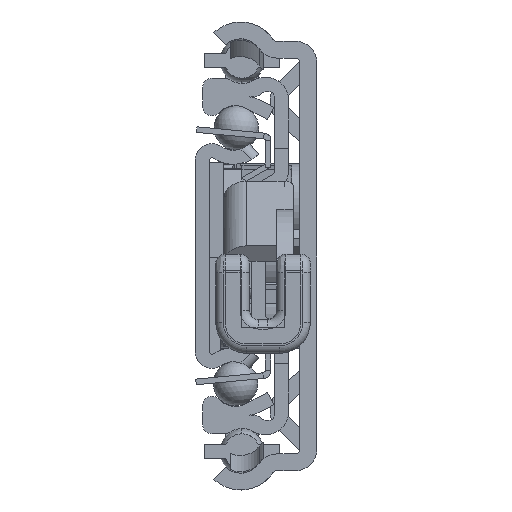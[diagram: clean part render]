
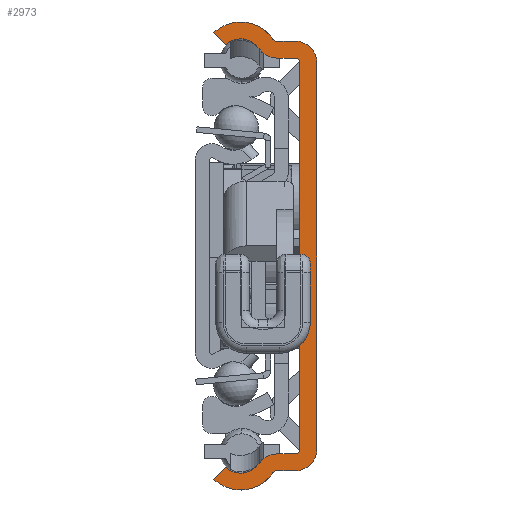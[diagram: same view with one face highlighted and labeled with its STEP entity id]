
A CAD part, left-side view. The second image highlights one B-rep face of the part: STEP entity #2973.
In plain terms, the highlighted planar face has unit normal (-1, 0, 0).
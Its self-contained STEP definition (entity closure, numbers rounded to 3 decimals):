
#1=DIRECTION('',(0.,1.,0.));
#2=VECTOR('',#1,1.975);
#3=CARTESIAN_POINT('',(0.,2.3,21.15));
#4=LINE('',#3,#2);
#5=CARTESIAN_POINT('',(0.,4.275,23.45));
#6=DIRECTION('',(-1.,0.,0.));
#7=DIRECTION('',(0.,0.827,-0.562));
#8=AXIS2_PLACEMENT_3D('',#5,#6,#7);
#10=CARTESIAN_POINT('',(0.,8.147,20.82));
#11=DIRECTION('',(-1.,0.,0.));
#12=DIRECTION('',(0.,-0.827,0.562));
#13=AXIS2_PLACEMENT_3D('',#10,#11,#12);
#15=DIRECTION('',(0.,0.683,0.731));
#16=VECTOR('',#15,1.8);
#17=CARTESIAN_POINT('',(0.,9.771,22.559));
#18=LINE('',#17,#16);
#19=CARTESIAN_POINT('',(0.,8.147,20.82));
#20=DIRECTION('',(1.,0.,0.));
#21=DIRECTION('',(0.,0.683,0.731));
#22=AXIS2_PLACEMENT_3D('',#19,#20,#21);
#24=DIRECTION('',(0.,-1.,0.));
#25=VECTOR('',#24,1.975);
#26=CARTESIAN_POINT('',(0.,4.275,22.95));
#27=LINE('',#26,#25);
#28=CARTESIAN_POINT('',(0.,2.3,20.65));
#29=DIRECTION('',(-1.,0.,0.));
#30=DIRECTION('',(0.,-1.,0.));
#31=AXIS2_PLACEMENT_3D('',#28,#29,#30);
#33=DIRECTION('',(0.,0.,-1.));
#34=VECTOR('',#33,41.3);
#35=CARTESIAN_POINT('',(0.,0.,20.65));
#36=LINE('',#35,#34);
#37=CARTESIAN_POINT('',(0.,2.3,-20.65));
#38=DIRECTION('',(-1.,0.,0.));
#39=DIRECTION('',(0.,0.,-1.));
#40=AXIS2_PLACEMENT_3D('',#37,#38,#39);
#42=DIRECTION('',(0.,1.,0.));
#43=VECTOR('',#42,1.975);
#44=CARTESIAN_POINT('',(0.,2.3,-22.95));
#45=LINE('',#44,#43);
#46=CARTESIAN_POINT('',(0.,8.147,-20.82));
#47=DIRECTION('',(1.,0.,0.));
#48=DIRECTION('',(0.,-0.827,-0.562));
#49=AXIS2_PLACEMENT_3D('',#46,#47,#48);
#51=DIRECTION('',(0.,-0.683,0.731));
#52=VECTOR('',#51,1.8);
#53=CARTESIAN_POINT('',(0.,11.,-23.875));
#54=LINE('',#53,#52);
#55=CARTESIAN_POINT('',(0.,8.147,-20.82));
#56=DIRECTION('',(-1.,0.,0.));
#57=DIRECTION('',(0.,0.683,-0.731));
#58=AXIS2_PLACEMENT_3D('',#55,#56,#57);
#60=CARTESIAN_POINT('',(0.,4.275,-23.45));
#61=DIRECTION('',(-1.,0.,0.));
#62=DIRECTION('',(0.,0.,1.));
#63=AXIS2_PLACEMENT_3D('',#60,#61,#62);
#65=DIRECTION('',(0.,-1.,0.));
#66=VECTOR('',#65,1.975);
#67=CARTESIAN_POINT('',(0.,4.275,-21.15));
#68=LINE('',#67,#66);
#204=DIRECTION('',(0.,0.,-1.));
#205=VECTOR('',#204,41.3);
#206=CARTESIAN_POINT('',(0.,1.8,20.65));
#207=LINE('',#206,#205);
#1007=CARTESIAN_POINT('',(0.,2.3,-20.65));
#1008=DIRECTION('',(1.,0.,0.));
#1009=DIRECTION('',(0.,-1.,0.));
#1010=AXIS2_PLACEMENT_3D('',#1007,#1008,#1009);
#1205=CARTESIAN_POINT('',(0.,2.3,20.65));
#1206=DIRECTION('',(1.,0.,0.));
#1207=DIRECTION('',(0.,0.,1.));
#1208=AXIS2_PLACEMENT_3D('',#1205,#1206,#1207);
#1369=CARTESIAN_POINT('',(0.,4.275,23.45));
#1370=DIRECTION('',(1.,0.,0.));
#1371=DIRECTION('',(0.,0.,-1.));
#1372=AXIS2_PLACEMENT_3D('',#1369,#1370,#1371);
#1509=CARTESIAN_POINT('',(0.,4.275,-23.45));
#1510=DIRECTION('',(1.,0.,0.));
#1511=DIRECTION('',(0.,0.827,0.562));
#1512=AXIS2_PLACEMENT_3D('',#1509,#1510,#1511);
#2268=CARTESIAN_POINT('',(0.,11.,-23.875));
#2269=CARTESIAN_POINT('',(0.,9.771,-22.559));
#2270=VERTEX_POINT('',#2268);
#2271=VERTEX_POINT('',#2269);
#2272=CARTESIAN_POINT('',(0.,9.771,22.559));
#2273=CARTESIAN_POINT('',(0.,11.,23.875));
#2274=VERTEX_POINT('',#2272);
#2275=VERTEX_POINT('',#2273);
#2284=CARTESIAN_POINT('',(0.,4.275,22.95));
#2285=CARTESIAN_POINT('',(0.,4.689,23.169));
#2286=VERTEX_POINT('',#2284);
#2287=VERTEX_POINT('',#2285);
#2292=CARTESIAN_POINT('',(0.,4.689,-23.169));
#2293=CARTESIAN_POINT('',(0.,4.275,-22.95));
#2294=VERTEX_POINT('',#2292);
#2295=VERTEX_POINT('',#2293);
#2300=CARTESIAN_POINT('',(0.,2.3,-21.15));
#2302=VERTEX_POINT('',#2300);
#2304=CARTESIAN_POINT('',(0.,2.3,21.15));
#2306=VERTEX_POINT('',#2304);
#2308=CARTESIAN_POINT('',(0.,1.8,-20.65));
#2309=VERTEX_POINT('',#2308);
#2312=CARTESIAN_POINT('',(0.,1.8,20.65));
#2313=VERTEX_POINT('',#2312);
#2316=CARTESIAN_POINT('',(0.,4.275,-21.15));
#2317=CARTESIAN_POINT('',(0.,6.178,-22.157));
#2318=VERTEX_POINT('',#2316);
#2319=VERTEX_POINT('',#2317);
#2324=CARTESIAN_POINT('',(0.,0.,20.65));
#2325=CARTESIAN_POINT('',(0.,2.3,22.95));
#2326=VERTEX_POINT('',#2324);
#2327=VERTEX_POINT('',#2325);
#2332=CARTESIAN_POINT('',(0.,6.178,22.157));
#2333=CARTESIAN_POINT('',(0.,4.275,21.15));
#2334=VERTEX_POINT('',#2332);
#2335=VERTEX_POINT('',#2333);
#2340=CARTESIAN_POINT('',(0.,2.3,-22.95));
#2341=CARTESIAN_POINT('',(0.,0.,-20.65));
#2342=VERTEX_POINT('',#2340);
#2343=VERTEX_POINT('',#2341);
#2926=CARTESIAN_POINT('',(0.,0.,0.));
#2927=DIRECTION('',(1.,0.,0.));
#2928=DIRECTION('',(0.,-1.,0.));
#2929=AXIS2_PLACEMENT_3D('',#2926,#2927,#2928);
#2930=PLANE('',#2929);
#2932=ORIENTED_EDGE('',*,*,#2931,.F.);
#2934=ORIENTED_EDGE('',*,*,#2933,.F.);
#2936=ORIENTED_EDGE('',*,*,#2935,.T.);
#2938=ORIENTED_EDGE('',*,*,#2937,.F.);
#2940=ORIENTED_EDGE('',*,*,#2939,.T.);
#2942=ORIENTED_EDGE('',*,*,#2941,.T.);
#2944=ORIENTED_EDGE('',*,*,#2943,.T.);
#2946=ORIENTED_EDGE('',*,*,#2945,.F.);
#2948=ORIENTED_EDGE('',*,*,#2947,.T.);
#2950=ORIENTED_EDGE('',*,*,#2949,.F.);
#2952=ORIENTED_EDGE('',*,*,#2951,.T.);
#2954=ORIENTED_EDGE('',*,*,#2953,.F.);
#2956=ORIENTED_EDGE('',*,*,#2955,.T.);
#2958=ORIENTED_EDGE('',*,*,#2957,.F.);
#2960=ORIENTED_EDGE('',*,*,#2959,.T.);
#2962=ORIENTED_EDGE('',*,*,#2961,.T.);
#2964=ORIENTED_EDGE('',*,*,#2963,.T.);
#2966=ORIENTED_EDGE('',*,*,#2965,.F.);
#2968=ORIENTED_EDGE('',*,*,#2967,.T.);
#2970=ORIENTED_EDGE('',*,*,#2969,.F.);
#2971=EDGE_LOOP('',(#2932,#2934,#2936,#2938,#2940,#2942,#2944,#2946,#2948,#2950,
#2952,#2954,#2956,#2958,#2960,#2962,#2964,#2966,#2968,#2970));
#2972=FACE_OUTER_BOUND('',#2971,.F.);
#9=CIRCLE('',#8,2.3);
#14=CIRCLE('',#13,2.38);
#23=CIRCLE('',#22,4.18);
#32=CIRCLE('',#31,2.3);
#41=CIRCLE('',#40,2.3);
#50=CIRCLE('',#49,4.18);
#59=CIRCLE('',#58,2.38);
#64=CIRCLE('',#63,2.3);
#1011=CIRCLE('',#1010,0.5);
#1209=CIRCLE('',#1208,0.5);
#1373=CIRCLE('',#1372,0.5);
#1513=CIRCLE('',#1512,0.5);
#2931=EDGE_CURVE('',#2313,#2309,#207,.T.);
#2933=EDGE_CURVE('',#2306,#2313,#1209,.T.);
#2935=EDGE_CURVE('',#2306,#2335,#4,.T.);
#2937=EDGE_CURVE('',#2334,#2335,#9,.T.);
#2939=EDGE_CURVE('',#2334,#2274,#14,.T.);
#2941=EDGE_CURVE('',#2274,#2275,#18,.T.);
#2943=EDGE_CURVE('',#2275,#2287,#23,.T.);
#2945=EDGE_CURVE('',#2286,#2287,#1373,.T.);
#2947=EDGE_CURVE('',#2286,#2327,#27,.T.);
#2949=EDGE_CURVE('',#2326,#2327,#32,.T.);
#2951=EDGE_CURVE('',#2326,#2343,#36,.T.);
#2953=EDGE_CURVE('',#2342,#2343,#41,.T.);
#2955=EDGE_CURVE('',#2342,#2295,#45,.T.);
#2957=EDGE_CURVE('',#2294,#2295,#1513,.T.);
#2959=EDGE_CURVE('',#2294,#2270,#50,.T.);
#2961=EDGE_CURVE('',#2270,#2271,#54,.T.);
#2963=EDGE_CURVE('',#2271,#2319,#59,.T.);
#2965=EDGE_CURVE('',#2318,#2319,#64,.T.);
#2967=EDGE_CURVE('',#2318,#2302,#68,.T.);
#2969=EDGE_CURVE('',#2309,#2302,#1011,.T.);
#2973=ADVANCED_FACE('',(#2972),#2930,.F.);
